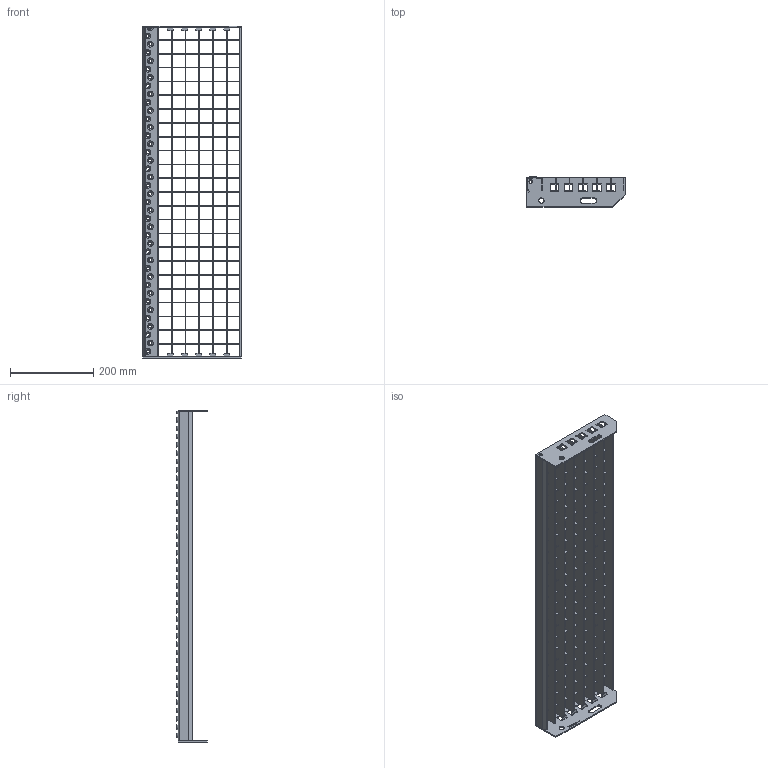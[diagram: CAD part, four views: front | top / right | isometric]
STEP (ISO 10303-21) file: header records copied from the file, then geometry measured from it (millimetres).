
FILE_DESCRIPTION(/* description */ ('','CAx-IF Rec.Pracs.---Representation and Presentation of Product Manufacturing Information (PMI)---3.8---2014-02-18'),/* implementation_level */ '2;1');
FILE_NAME(/* name */ 'C:\Users\phaverkotte\Desktop\Lager STEP\P-Stufen\P 230-33-2\P 230-33-2 800mm x 240mm.stp',/* time_stamp */ '2018-03-24T08:54:30+01:00',/* author */ ('phaverkotte'),/* organization */ (''),/* preprocessor_version */ 'ST-DEVELOPER v16.13',/* originating_system */ 'Autodesk Inventor 2018',/* authorisation */ '');
FILE_SCHEMA (('AP242_MANAGED_MODEL_BASED_3D_ENGINEERING_MIM_LF { 1 0 10303 442 1 1 4 }'));
Length unit declared in the file: millimetre
Products named in the file (8): Schodišťový stupeň přím
ý lisovaný; Seitenplatte ausgeklinkt links; Seitenplatte 240 ausgeklinkt extern rechts; Schod nášlap; P Rošt schodu; Querstab; P Nosný pás; Hinteres Flach
Assembly tree (34 placements, depth 3):
  Schodišťový stupeň přím
ý lisovaný
    Seitenplatte ausgeklinkt links
    Seitenplatte 240 ausgeklinkt extern rechts
    Schod nášlap
    P Rošt schodu
      Querstab  x23
      P Nosný pás  x6
      Hinteres Flach
Bounding box: 236.98 x 72.75 x 800 mm (x, y, z)
Volume: 623409.9 mm3; surface area: 633234.4 mm2
Topology: 33 solids, 33 shells, 1310 faces, 3583 edges, 2356 vertices
Faces by surface type: plane 1018, cone 120, cylinder 112, torus 40, bspline 20
Full cylindrical faces by diameter (mm): 8 x2, 13 x2
Entity records: 24357 total; most frequent: CARTESIAN_POINT 7051, DIRECTION 3440, ORIENTED_EDGE 3280, EDGE_CURVE 1640, LINE 1168, VECTOR 1168, VERTEX_POINT 1141, AXIS2_PLACEMENT_3D 1136
